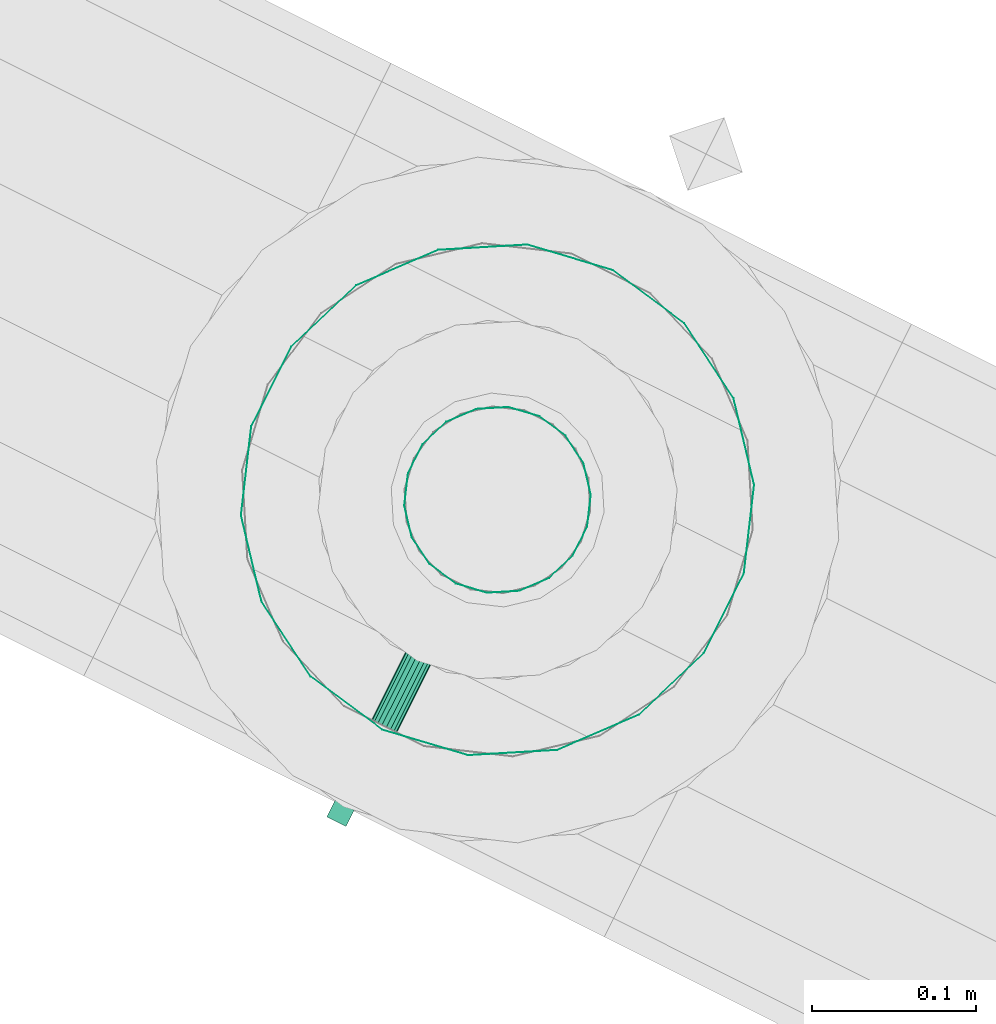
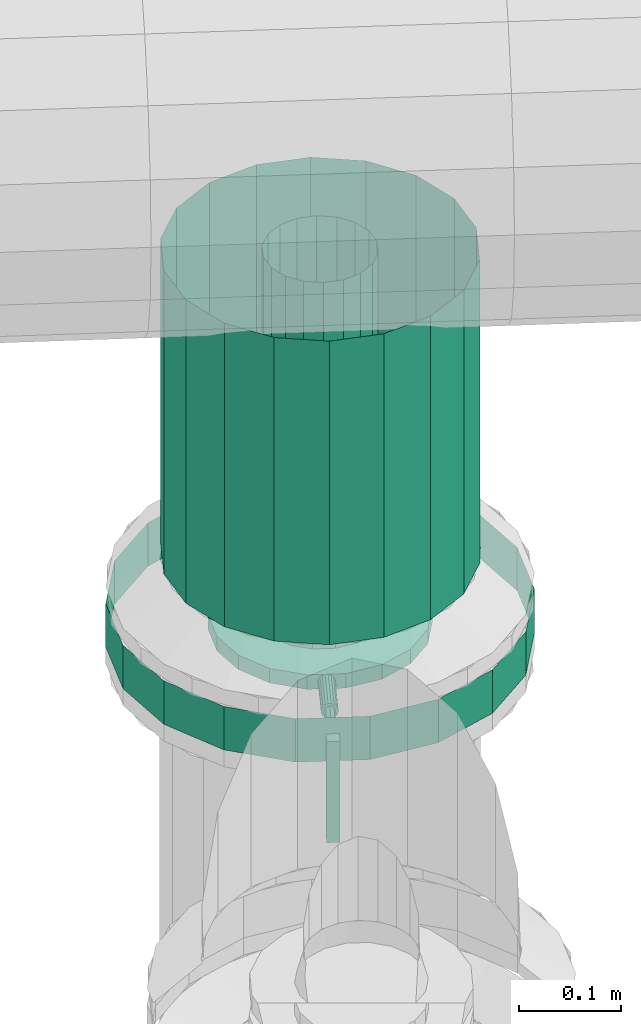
# One storey, part 124 of 152: 1 flow controller, 1 flow segment.
"""IFC2X3 building model written with IfcOpenShell, lengths in metres."""

from ifc_helpers import new_model, si_unit, derived_unit, direction, frame, origin, place, context, subcontext, project, spatial, face_set, surface_model, source, transform, mapped, material, type_object, type_shapes, element, save


model = new_model("IFC2X3")

# Units and contexts
model_context = context("Model", 3, precision=5.2338327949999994e-05, world=origin(), true_north=direction((0.0, 1.0)))
body_context = subcontext(model_context, "Body", "Model", "MODEL_VIEW")
ifc_project = project(units=[si_unit("LENGTHUNIT", "METRE"), si_unit("AREAUNIT", "SQUARE_METRE"), si_unit("VOLUMEUNIT", "CUBIC_METRE"), si_unit("MASSUNIT", "GRAM", prefix="KILO"), si_unit("PLANEANGLEUNIT", "RADIAN"), derived_unit("THERMALTRANSMITTANCEUNIT", [(si_unit("MASSUNIT", "GRAM", prefix="KILO"), 1), (si_unit("THERMODYNAMICTEMPERATUREUNIT", "KELVIN"), -1), (si_unit("TIMEUNIT", "SECOND"), -3)])], contexts=[model_context])

# Site, building, storey
site_placement = place(None, frame((0.0, 0.0, 0.0), z_axis=(0.0, 0.0, 1.0), x_axis=(0.8939966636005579, -0.4480736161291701, 0.0)))
site = spatial("IfcSite", under=ifc_project, at=site_placement, Name="Default", CompositionType="ELEMENT")
building_placement = place(site_placement, origin())
building = spatial("IfcBuilding", under=site, at=building_placement, CompositionType="ELEMENT")
storey_placement = place(building_placement, frame((0.0, 0.0, 2.7499999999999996)))
storey = spatial("IfcBuildingStorey", under=building, at=storey_placement, Name="1. Obergeschoss", CompositionType="ELEMENT", Elevation=2.7499999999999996)

# Flow controller
ifc_material = material(Name="IfcSurfaceStyle #1741")
distribution_element_type_1 = type_object("IfcDistributionElementType", Name="Zwischenflanschklappe 247202:Zwischenflanschklappe 247202", material=ifc_material)
shared_shape_1 = source(origin(), body_context, "Body", "SurfaceModel", [
    surface_model("IfcFaceBasedSurfaceModel", [(7.27606832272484, 7.805308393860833, 4.842322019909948), (7.27606832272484, 7.805308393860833, 4.963172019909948), (7.289168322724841, 7.805308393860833, 4.963172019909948), (7.289168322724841, 7.805308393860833, 4.842322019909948), (7.289168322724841, 7.792208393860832, 4.963172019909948), (7.289168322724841, 7.792208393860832, 4.842322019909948), (7.27606832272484, 7.792208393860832, 4.963172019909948), (7.27606832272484, 7.792208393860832, 4.842322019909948), (7.34811832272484, 8.012208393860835, 4.930622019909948), (7.344168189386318, 8.034610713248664, 4.930622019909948), (7.344168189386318, 8.034610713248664, 4.947955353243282), (7.34811832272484, 8.012208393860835, 4.947955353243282), (7.332794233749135, 8.054310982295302, 4.930622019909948), (7.332794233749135, 8.054310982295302, 4.947955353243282), (7.31536832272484, 8.068933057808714, 4.930622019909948), (7.31536832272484, 8.068933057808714, 4.947955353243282), (7.293992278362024, 8.076713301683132, 4.930622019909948), (7.293992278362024, 8.076713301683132, 4.947955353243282), (7.2712443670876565, 8.076713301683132, 4.930622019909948), (7.2712443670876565, 8.076713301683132, 4.947955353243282), (7.249868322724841, 8.068933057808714, 4.930622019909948), (7.249868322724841, 8.068933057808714, 4.947955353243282), (7.232442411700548, 8.054310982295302, 4.930622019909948), (7.232442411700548, 8.054310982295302, 4.947955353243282), (7.221068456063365, 8.034610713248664, 4.930622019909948), (7.221068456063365, 8.034610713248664, 4.947955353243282), (7.217118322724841, 8.012208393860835, 4.930622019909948), (7.217118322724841, 8.012208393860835, 4.947955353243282), (7.221068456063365, 7.989806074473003, 4.930622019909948), (7.221068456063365, 7.989806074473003, 4.947955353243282), (7.232442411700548, 7.970105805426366, 4.930622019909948), (7.232442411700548, 7.970105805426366, 4.947955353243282), (7.249868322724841, 7.955483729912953, 4.930622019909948), (7.249868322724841, 7.955483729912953, 4.947955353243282), (7.2712443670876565, 7.947703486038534, 4.930622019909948), (7.2712443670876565, 7.947703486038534, 4.947955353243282), (7.293992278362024, 7.9477034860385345, 4.930622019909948), (7.293992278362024, 7.9477034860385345, 4.947955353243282), (7.31536832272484, 7.955483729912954, 4.930622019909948), (7.31536832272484, 7.955483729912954, 4.947955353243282), (7.3327942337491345, 7.970105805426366, 4.930622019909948), (7.3327942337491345, 7.970105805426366, 4.947955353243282), (7.344168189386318, 7.989806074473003, 4.930622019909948), (7.344168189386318, 7.989806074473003, 4.947955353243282), (7.28261832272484, 8.012208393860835, 4.930622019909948), (7.28261832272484, 8.012208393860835, 4.947955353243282), (7.392618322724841, 8.012208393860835, 4.947955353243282), (7.385984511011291, 8.049830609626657, 4.947955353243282), (7.385984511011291, 8.049830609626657, 4.965288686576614), (7.392618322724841, 8.012208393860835, 4.965288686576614), (7.366883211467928, 8.082915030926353, 4.947955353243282), (7.366883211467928, 8.082915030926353, 4.965288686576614), (7.337618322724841, 8.107471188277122, 4.947955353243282), (7.337618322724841, 8.107471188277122, 4.965288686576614), (7.301719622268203, 8.120537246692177, 4.947955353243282), (7.301719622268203, 8.120537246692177, 4.965288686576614), (7.263517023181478, 8.120537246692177, 4.947955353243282), (7.263517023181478, 8.120537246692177, 4.965288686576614), (7.22761832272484, 8.10747118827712, 4.947955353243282), (7.22761832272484, 8.10747118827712, 4.965288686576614), (7.198353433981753, 8.082915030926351, 4.947955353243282), (7.198353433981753, 8.082915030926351, 4.965288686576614), (7.17925213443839, 8.049830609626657, 4.947955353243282), (7.17925213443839, 8.049830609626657, 4.965288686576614), (7.1726183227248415, 8.012208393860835, 4.947955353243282), (7.1726183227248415, 8.012208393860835, 4.965288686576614), (7.17925213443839, 7.9745861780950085, 4.947955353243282), (7.17925213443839, 7.9745861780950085, 4.965288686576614), (7.198353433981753, 7.941501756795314, 4.947955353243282), (7.198353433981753, 7.941501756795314, 4.965288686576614), (7.22761832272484, 7.916945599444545, 4.947955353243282), (7.22761832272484, 7.916945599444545, 4.965288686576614), (7.263517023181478, 7.90387954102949, 4.947955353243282), (7.263517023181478, 7.90387954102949, 4.965288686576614), (7.301719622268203, 7.90387954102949, 4.947955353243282), (7.301719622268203, 7.90387954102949, 4.965288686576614), (7.337618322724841, 7.916945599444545, 4.947955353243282), (7.337618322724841, 7.916945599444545, 4.965288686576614), (7.366883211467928, 7.941501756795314, 4.947955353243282), (7.366883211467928, 7.941501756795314, 4.965288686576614), (7.385984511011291, 7.9745861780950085, 4.947955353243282), (7.385984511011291, 7.9745861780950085, 4.965288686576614), (7.28261832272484, 8.012208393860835, 4.9652886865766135), (7.34811832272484, 8.012208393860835, 4.965288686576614), (7.344168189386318, 8.034610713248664, 4.965288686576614), (7.344168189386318, 8.034610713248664, 4.9826220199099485), (7.34811832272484, 8.012208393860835, 4.9826220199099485), (7.332794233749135, 8.054310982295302, 4.965288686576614), (7.332794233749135, 8.054310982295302, 4.9826220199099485), (7.31536832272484, 8.068933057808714, 4.965288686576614), (7.31536832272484, 8.068933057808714, 4.9826220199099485), (7.293992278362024, 8.076713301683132, 4.965288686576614), (7.293992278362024, 8.076713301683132, 4.9826220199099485), (7.2712443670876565, 8.076713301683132, 4.965288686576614), (7.2712443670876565, 8.076713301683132, 4.9826220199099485), (7.249868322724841, 8.068933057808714, 4.965288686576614), (7.249868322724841, 8.068933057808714, 4.9826220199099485), (7.232442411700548, 8.054310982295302, 4.965288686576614), (7.232442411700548, 8.054310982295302, 4.9826220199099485), (7.221068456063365, 8.034610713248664, 4.965288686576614), (7.221068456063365, 8.034610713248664, 4.9826220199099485), (7.217118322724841, 8.012208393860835, 4.965288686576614), (7.217118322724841, 8.012208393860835, 4.9826220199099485), (7.221068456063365, 7.989806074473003, 4.965288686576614), (7.221068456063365, 7.989806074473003, 4.9826220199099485), (7.232442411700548, 7.970105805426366, 4.965288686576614), (7.232442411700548, 7.970105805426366, 4.9826220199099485), (7.249868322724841, 7.955483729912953, 4.965288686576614), (7.249868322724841, 7.955483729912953, 4.9826220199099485), (7.2712443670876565, 7.947703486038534, 4.965288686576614), (7.2712443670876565, 7.947703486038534, 4.9826220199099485), (7.293992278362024, 7.9477034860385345, 4.965288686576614), (7.293992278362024, 7.9477034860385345, 4.9826220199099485), (7.31536832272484, 7.955483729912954, 4.965288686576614), (7.31536832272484, 7.955483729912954, 4.9826220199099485), (7.3327942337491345, 7.970105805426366, 4.965288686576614), (7.3327942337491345, 7.970105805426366, 4.9826220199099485), (7.344168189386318, 7.989806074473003, 4.965288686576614), (7.344168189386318, 7.989806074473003, 4.9826220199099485), (7.28261832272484, 8.012208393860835, 4.982622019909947), (7.291284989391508, 8.012208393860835, 4.956622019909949), (7.290762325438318, 8.012208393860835, 4.959586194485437), (7.290762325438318, 7.853758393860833, 4.959586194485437), (7.291284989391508, 7.853758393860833, 4.956622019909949), (7.289257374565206, 8.012208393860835, 4.9621928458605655), (7.289257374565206, 7.853758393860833, 4.9621928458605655), (7.286951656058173, 8.012208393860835, 4.964127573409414), (7.286951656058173, 7.853758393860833, 4.964127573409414), (7.284123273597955, 8.012208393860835, 4.965157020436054), (7.284123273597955, 7.853758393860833, 4.965157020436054), (7.281113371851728, 8.012208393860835, 4.965157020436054), (7.281113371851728, 7.853758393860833, 4.965157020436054), (7.278284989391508, 8.012208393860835, 4.964127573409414), (7.278284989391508, 7.853758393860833, 4.964127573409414), (7.275979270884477, 8.012208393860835, 4.9621928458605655), (7.275979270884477, 7.853758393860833, 4.9621928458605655), (7.274474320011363, 8.012208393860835, 4.959586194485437), (7.274474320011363, 7.853758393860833, 4.959586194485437), (7.273951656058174, 8.012208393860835, 4.956622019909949), (7.273951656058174, 7.853758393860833, 4.956622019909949), (7.274474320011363, 8.012208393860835, 4.953657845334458), (7.274474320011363, 7.853758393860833, 4.953657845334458), (7.275979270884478, 8.012208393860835, 4.951051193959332), (7.275979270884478, 7.853758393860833, 4.951051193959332), (7.278284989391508, 8.012208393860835, 4.949116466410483), (7.278284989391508, 7.853758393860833, 4.949116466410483), (7.281113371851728, 8.012208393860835, 4.948087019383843), (7.281113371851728, 7.853758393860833, 4.948087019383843), (7.284123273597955, 8.012208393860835, 4.948087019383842), (7.284123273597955, 7.853758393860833, 4.948087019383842), (7.286951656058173, 8.012208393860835, 4.949116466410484), (7.286951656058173, 7.853758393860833, 4.949116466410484), (7.289257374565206, 8.012208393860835, 4.951051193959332), (7.289257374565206, 7.853758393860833, 4.951051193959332), (7.290762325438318, 8.012208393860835, 4.953657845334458), (7.290762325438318, 7.853758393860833, 4.953657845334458), (7.28261832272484, 8.012208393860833, 4.956622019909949), (7.28261832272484, 7.853758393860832, 4.956622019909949), (7.28833332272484, 7.853758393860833, 4.956622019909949), (7.2866594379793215, 7.853758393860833, 4.960663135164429), (7.2866594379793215, 7.805308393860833, 4.960663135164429), (7.28833332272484, 7.805308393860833, 4.956622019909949), (7.28261832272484, 7.853758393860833, 4.962337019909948), (7.28261832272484, 7.805308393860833, 4.962337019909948), (7.278577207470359, 7.853758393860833, 4.960663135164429), (7.278577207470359, 7.805308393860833, 4.960663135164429), (7.2769033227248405, 7.853758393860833, 4.956622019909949), (7.2769033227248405, 7.805308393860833, 4.956622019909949), (7.2785772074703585, 7.853758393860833, 4.952580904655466), (7.2785772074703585, 7.805308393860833, 4.952580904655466), (7.28261832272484, 7.853758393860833, 4.950907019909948), (7.28261832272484, 7.805308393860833, 4.950907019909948), (7.2866594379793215, 7.853758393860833, 4.952580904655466), (7.2866594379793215, 7.805308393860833, 4.952580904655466), (7.28261832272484, 7.805308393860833, 4.956622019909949), (7.492618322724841, 8.012208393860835, 4.930622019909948), (7.479953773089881, 8.084032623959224, 4.930622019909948), (7.479953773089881, 8.084032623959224, 4.9826220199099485), (7.492618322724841, 8.012208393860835, 4.9826220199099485), (7.443487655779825, 8.147193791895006, 4.930622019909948), (7.443487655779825, 8.147193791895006, 4.9826220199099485), (7.387618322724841, 8.194073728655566, 4.930622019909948), (7.387618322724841, 8.194073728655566, 4.9826220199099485), (7.319084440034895, 8.219018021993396, 4.930622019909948), (7.319084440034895, 8.219018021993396, 4.9826220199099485), (7.246152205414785, 8.219018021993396, 4.930622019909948), (7.246152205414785, 8.219018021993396, 4.9826220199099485), (7.177618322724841, 8.194073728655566, 4.930622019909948), (7.177618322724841, 8.194073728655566, 4.9826220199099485), (7.121748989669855, 8.147193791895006, 4.930622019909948), (7.121748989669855, 8.147193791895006, 4.9826220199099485), (7.0852828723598, 8.084032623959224, 4.930622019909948), (7.0852828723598, 8.084032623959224, 4.9826220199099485), (7.07261832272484, 8.012208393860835, 4.930622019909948), (7.07261832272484, 8.012208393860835, 4.9826220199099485), (7.0852828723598, 7.940384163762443, 4.930622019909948), (7.0852828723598, 7.940384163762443, 4.9826220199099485), (7.121748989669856, 7.877222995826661, 4.930622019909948), (7.121748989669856, 7.877222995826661, 4.9826220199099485), (7.177618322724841, 7.830343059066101, 4.930622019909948), (7.177618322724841, 7.830343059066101, 4.9826220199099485), (7.246152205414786, 7.80539876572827, 4.930622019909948), (7.246152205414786, 7.80539876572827, 4.9826220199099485), (7.319084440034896, 7.80539876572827, 4.930622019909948), (7.319084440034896, 7.80539876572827, 4.9826220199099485), (7.387618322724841, 7.830343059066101, 4.930622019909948), (7.387618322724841, 7.830343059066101, 4.9826220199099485), (7.443487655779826, 7.877222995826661, 4.930622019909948), (7.443487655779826, 7.877222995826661, 4.9826220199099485), (7.479953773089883, 7.940384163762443, 4.930622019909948), (7.479953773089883, 7.940384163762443, 4.9826220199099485)], [face_set([[[0, 1, 2, 3]], [[3, 2, 4, 5]], [[5, 4, 6, 7]], [[7, 6, 1, 0]], [[0, 3, 5, 7]], [[6, 4, 2, 1]], [[8, 9, 10, 11]], [[9, 12, 13, 10]], [[12, 14, 15, 13]], [[14, 16, 17, 15]], [[16, 18, 19, 17]], [[18, 20, 21, 19]], [[20, 22, 23, 21]], [[22, 24, 25, 23]], [[24, 26, 27, 25]], [[26, 28, 29, 27]], [[28, 30, 31, 29]], [[30, 32, 33, 31]], [[32, 34, 35, 33]], [[34, 36, 37, 35]], [[36, 38, 39, 37]], [[38, 40, 41, 39]], [[40, 42, 43, 41]], [[42, 8, 11, 43]], [[44, 9, 8]], [[44, 12, 9]], [[44, 14, 12]], [[44, 16, 14]], [[44, 18, 16]], [[44, 20, 18]], [[44, 22, 20]], [[44, 24, 22]], [[44, 26, 24]], [[44, 28, 26]], [[44, 30, 28]], [[44, 32, 30]], [[44, 34, 32]], [[44, 36, 34]], [[44, 38, 36]], [[44, 40, 38]], [[44, 42, 40]], [[44, 8, 42]], [[45, 43, 11]], [[45, 41, 43]], [[45, 39, 41]], [[45, 37, 39]], [[45, 35, 37]], [[45, 33, 35]], [[45, 31, 33]], [[45, 29, 31]], [[45, 27, 29]], [[45, 25, 27]], [[45, 23, 25]], [[45, 21, 23]], [[45, 19, 21]], [[45, 17, 19]], [[45, 15, 17]], [[45, 13, 15]], [[45, 10, 13]], [[45, 11, 10]], [[46, 47, 48, 49]], [[47, 50, 51, 48]], [[50, 52, 53, 51]], [[52, 54, 55, 53]], [[54, 56, 57, 55]], [[56, 58, 59, 57]], [[58, 60, 61, 59]], [[60, 62, 63, 61]], [[62, 64, 65, 63]], [[64, 66, 67, 65]], [[66, 68, 69, 67]], [[68, 70, 71, 69]], [[70, 72, 73, 71]], [[72, 74, 75, 73]], [[74, 76, 77, 75]], [[76, 78, 79, 77]], [[78, 80, 81, 79]], [[80, 46, 49, 81]], [[45, 47, 46]], [[45, 50, 47]], [[45, 52, 50]], [[45, 54, 52]], [[45, 56, 54]], [[45, 58, 56]], [[45, 60, 58]], [[45, 62, 60]], [[45, 64, 62]], [[45, 66, 64]], [[45, 68, 66]], [[45, 70, 68]], [[45, 72, 70]], [[45, 74, 72]], [[45, 76, 74]], [[45, 78, 76]], [[45, 80, 78]], [[45, 46, 80]], [[82, 81, 49]], [[82, 79, 81]], [[82, 77, 79]], [[82, 75, 77]], [[82, 73, 75]], [[82, 71, 73]], [[82, 69, 71]], [[82, 67, 69]], [[82, 65, 67]], [[82, 63, 65]], [[82, 61, 63]], [[82, 59, 61]], [[82, 57, 59]], [[82, 55, 57]], [[82, 53, 55]], [[82, 51, 53]], [[82, 48, 51]], [[82, 49, 48]], [[83, 84, 85, 86]], [[84, 87, 88, 85]], [[87, 89, 90, 88]], [[89, 91, 92, 90]], [[91, 93, 94, 92]], [[93, 95, 96, 94]], [[95, 97, 98, 96]], [[97, 99, 100, 98]], [[99, 101, 102, 100]], [[101, 103, 104, 102]], [[103, 105, 106, 104]], [[105, 107, 108, 106]], [[107, 109, 110, 108]], [[109, 111, 112, 110]], [[111, 113, 114, 112]], [[113, 115, 116, 114]], [[115, 117, 118, 116]], [[117, 83, 86, 118]], [[82, 84, 83]], [[82, 87, 84]], [[82, 89, 87]], [[82, 91, 89]], [[82, 93, 91]], [[82, 95, 93]], [[82, 97, 95]], [[82, 99, 97]], [[82, 101, 99]], [[82, 103, 101]], [[82, 105, 103]], [[82, 107, 105]], [[82, 109, 107]], [[82, 111, 109]], [[82, 113, 111]], [[82, 115, 113]], [[82, 117, 115]], [[82, 83, 117]], [[119, 118, 86]], [[119, 116, 118]], [[119, 114, 116]], [[119, 112, 114]], [[119, 110, 112]], [[119, 108, 110]], [[119, 106, 108]], [[119, 104, 106]], [[119, 102, 104]], [[119, 100, 102]], [[119, 98, 100]], [[119, 96, 98]], [[119, 94, 96]], [[119, 92, 94]], [[119, 90, 92]], [[119, 88, 90]], [[119, 85, 88]], [[119, 86, 85]], [[120, 121, 122, 123]], [[121, 124, 125, 122]], [[124, 126, 127, 125]], [[126, 128, 129, 127]], [[128, 130, 131, 129]], [[130, 132, 133, 131]], [[132, 134, 135, 133]], [[134, 136, 137, 135]], [[136, 138, 139, 137]], [[138, 140, 141, 139]], [[140, 142, 143, 141]], [[142, 144, 145, 143]], [[144, 146, 147, 145]], [[146, 148, 149, 147]], [[148, 150, 151, 149]], [[150, 152, 153, 151]], [[152, 154, 155, 153]], [[154, 120, 123, 155]], [[156, 121, 120]], [[156, 124, 121]], [[156, 126, 124]], [[156, 128, 126]], [[156, 130, 128]], [[156, 132, 130]], [[156, 134, 132]], [[156, 136, 134]], [[156, 138, 136]], [[156, 140, 138]], [[156, 142, 140]], [[156, 144, 142]], [[156, 146, 144]], [[156, 148, 146]], [[156, 150, 148]], [[156, 152, 150]], [[156, 154, 152]], [[156, 120, 154]], [[157, 155, 123]], [[157, 153, 155]], [[157, 151, 153]], [[157, 149, 151]], [[157, 147, 149]], [[157, 145, 147]], [[157, 143, 145]], [[157, 141, 143]], [[157, 139, 141]], [[157, 137, 139]], [[157, 135, 137]], [[157, 133, 135]], [[157, 131, 133]], [[157, 129, 131]], [[157, 127, 129]], [[157, 125, 127]], [[157, 122, 125]], [[157, 123, 122]], [[158, 159, 160, 161]], [[159, 162, 163, 160]], [[162, 164, 165, 163]], [[164, 166, 167, 165]], [[166, 168, 169, 167]], [[168, 170, 171, 169]], [[170, 172, 173, 171]], [[172, 158, 161, 173]], [[174, 173, 161]], [[174, 171, 173]], [[174, 169, 171]], [[174, 167, 169]], [[174, 165, 167]], [[174, 163, 165]], [[174, 160, 163]], [[174, 161, 160]], [[175, 176, 177, 178]], [[176, 179, 180, 177]], [[179, 181, 182, 180]], [[181, 183, 184, 182]], [[183, 185, 186, 184]], [[185, 187, 188, 186]], [[187, 189, 190, 188]], [[189, 191, 192, 190]], [[191, 193, 194, 192]], [[193, 195, 196, 194]], [[195, 197, 198, 196]], [[197, 199, 200, 198]], [[199, 201, 202, 200]], [[201, 203, 204, 202]], [[203, 205, 206, 204]], [[205, 207, 208, 206]], [[207, 209, 210, 208]], [[209, 175, 178, 210]]])]),
])
type_shapes(distribution_element_type_1, [shared_shape_1])
flow_controller_placement = place(storey_placement, frame((0.0, 0.0, -2.7499999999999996)))
element("IfcFlowController", 1, at=flow_controller_placement, inside=storey, type_object=distribution_element_type_1, material=ifc_material, Name="Zwischenflanschklappe", ObjectType="Zwischenflanschklappe", context=body_context, shape_type="MappedRepresentation", body=[
    mapped(shared_shape_1, transform((0.0, 0.0, 0.0), scale=1.0)),
])

# Flow segment
distribution_element_type_2 = type_object("IfcDistributionElementType", Name="Stahlrohr nach DIN 2448 247225:Stahlrohr nach DIN 2448 247225", material=ifc_material)
shared_shape_2 = source(origin(), body_context, "Body", "SurfaceModel", [
    surface_model("IfcFaceBasedSurfaceModel", [(7.282618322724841, 7.95505839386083, 5.397028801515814), (7.263071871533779, 7.9585049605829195, 5.397028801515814), (7.263071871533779, 7.9585049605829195, 5.034622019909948), (7.28261832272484, 7.95505839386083, 5.034622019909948), (7.245883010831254, 7.968428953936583, 5.397028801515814), (7.245883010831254, 7.968428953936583, 5.034622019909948), (7.233124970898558, 7.983633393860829, 5.397028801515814), (7.233124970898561, 7.983633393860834, 5.034622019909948), (7.22633655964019, 8.002284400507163, 5.397028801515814), (7.2263365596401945, 8.002284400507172, 5.034622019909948), (7.22633655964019, 8.022132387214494, 5.397028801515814), (7.2263365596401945, 8.0221323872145, 5.034622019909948), (7.233124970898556, 8.040783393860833, 5.397028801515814), (7.233124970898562, 8.040783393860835, 5.034622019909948), (7.245883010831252, 8.055987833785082, 5.397028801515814), (7.245883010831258, 8.055987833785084, 5.034622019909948), (7.263071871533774, 8.065911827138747, 5.397028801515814), (7.263071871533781, 8.065911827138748, 5.034622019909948), (7.282618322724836, 8.069358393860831, 5.397028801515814), (7.282618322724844, 8.06935839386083, 5.034622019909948), (7.302164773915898, 8.065911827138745, 5.397028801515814), (7.302164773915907, 8.065911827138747, 5.034622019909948), (7.319353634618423, 8.055987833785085, 5.397028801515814), (7.319353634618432, 8.05598783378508, 5.034622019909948), (7.33211167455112, 8.040783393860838, 5.397028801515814), (7.3321116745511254, 8.04078339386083, 5.034622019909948), (7.338900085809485, 8.022132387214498, 5.397028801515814), (7.33890008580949, 8.022132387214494, 5.034622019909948), (7.338900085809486, 8.002284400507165, 5.397028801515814), (7.338900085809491, 8.002284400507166, 5.034622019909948), (7.332111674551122, 7.983633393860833, 5.397028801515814), (7.332111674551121, 7.98363339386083, 5.034622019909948), (7.319353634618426, 7.968428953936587, 5.397028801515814), (7.319353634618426, 7.968428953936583, 5.034622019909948), (7.302164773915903, 7.958504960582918, 5.397028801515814), (7.302164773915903, 7.958504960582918, 5.034622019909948), (7.282618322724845, 7.855058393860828, 5.397028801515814), (7.228869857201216, 7.864535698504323, 5.397028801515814), (7.228869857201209, 7.864535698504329, 5.034622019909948), (7.2826183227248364, 7.855058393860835, 5.034622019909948), (7.181604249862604, 7.891824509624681, 5.397028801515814), (7.181604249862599, 7.891824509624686, 5.034622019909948), (7.146522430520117, 7.9336333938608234, 5.397028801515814), (7.146522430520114, 7.933633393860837, 5.034622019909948), (7.127855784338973, 7.984919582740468, 5.397028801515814), (7.127855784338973, 7.9849195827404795, 5.034622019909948), (7.127855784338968, 8.039497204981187, 5.397028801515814), (7.127855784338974, 8.039497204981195, 5.034622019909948), (7.14652243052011, 8.090783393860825, 5.397028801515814), (7.146522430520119, 8.090783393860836, 5.034622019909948), (7.181604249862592, 8.132592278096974, 5.397028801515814), (7.181604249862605, 8.132592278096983, 5.034622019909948), (7.228869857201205, 8.159881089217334, 5.397028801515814), (7.228869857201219, 8.159881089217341, 5.034622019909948), (7.282618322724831, 8.169358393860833, 5.397028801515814), (7.282618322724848, 8.169358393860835, 5.034622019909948), (7.336366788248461, 8.159881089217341, 5.397028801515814), (7.336366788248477, 8.159881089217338, 5.034622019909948), (7.383632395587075, 8.132592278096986, 5.397028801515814), (7.383632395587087, 8.132592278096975, 5.034622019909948), (7.418714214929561, 8.09078339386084, 5.397028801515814), (7.418714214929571, 8.090783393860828, 5.034622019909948), (7.437380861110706, 8.039497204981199, 5.397028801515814), (7.437380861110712, 8.039497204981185, 5.034622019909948), (7.43738086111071, 7.984919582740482, 5.397028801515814), (7.437380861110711, 7.984919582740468, 5.034622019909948), (7.418714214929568, 7.9336333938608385, 5.397028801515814), (7.418714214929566, 7.933633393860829, 5.034622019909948), (7.383632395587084, 7.891824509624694, 5.397028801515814), (7.383632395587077, 7.891824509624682, 5.034622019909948), (7.336366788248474, 7.864535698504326, 5.397028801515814), (7.3363667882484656, 7.864535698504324, 5.034622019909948)], [face_set([[[0, 1, 2, 3]], [[1, 4, 5, 2]], [[4, 6, 7, 5]], [[6, 8, 9, 7]], [[8, 10, 11, 9]], [[10, 12, 13, 11]], [[12, 14, 15, 13]], [[14, 16, 17, 15]], [[16, 18, 19, 17]], [[18, 20, 21, 19]], [[20, 22, 23, 21]], [[22, 24, 25, 23]], [[24, 26, 27, 25]], [[26, 28, 29, 27]], [[28, 30, 31, 29]], [[30, 32, 33, 31]], [[32, 34, 35, 33]], [[34, 0, 3, 35]], [[36, 37, 38, 39]], [[37, 40, 41, 38]], [[40, 42, 43, 41]], [[42, 44, 45, 43]], [[44, 46, 47, 45]], [[46, 48, 49, 47]], [[48, 50, 51, 49]], [[50, 52, 53, 51]], [[52, 54, 55, 53]], [[54, 56, 57, 55]], [[56, 58, 59, 57]], [[58, 60, 61, 59]], [[60, 62, 63, 61]], [[62, 64, 65, 63]], [[64, 66, 67, 65]], [[66, 68, 69, 67]], [[68, 70, 71, 69]], [[70, 36, 39, 71]]])]),
])
type_shapes(distribution_element_type_2, [shared_shape_2])
flow_segment_placement = place(storey_placement, frame((0.0, 0.0, -2.7499999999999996)))
element("IfcFlowSegment", 2, at=flow_segment_placement, inside=storey, type_object=distribution_element_type_2, material=ifc_material, Name="Stahlrohr nach DIN 2448", ObjectType="Stahlrohr nach DIN 2448", context=body_context, shape_type="MappedRepresentation", body=[
    mapped(shared_shape_2, transform((0.0, 0.0, 0.0), scale=1.0)),
])

save(model, "model.ifc")
